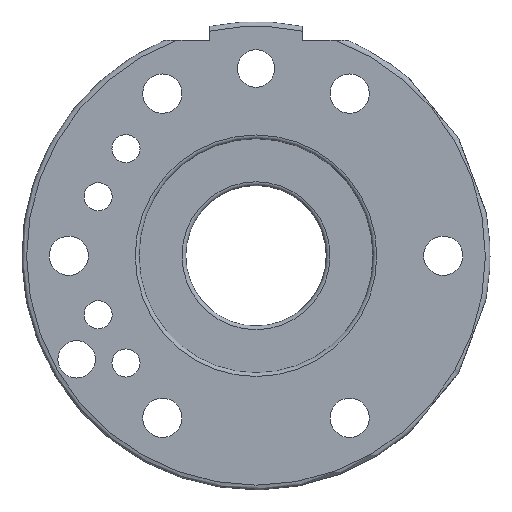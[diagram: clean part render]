
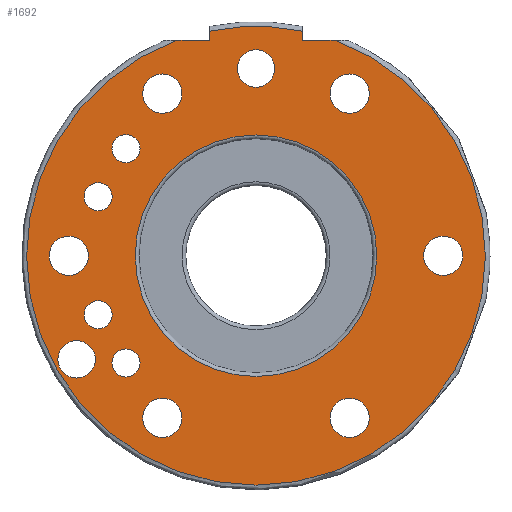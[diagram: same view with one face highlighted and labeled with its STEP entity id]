
A CAD part, front view. The second image highlights one B-rep face of the part: STEP entity #1692.
In plain terms, the highlighted planar face has unit normal (0, -1, 0).
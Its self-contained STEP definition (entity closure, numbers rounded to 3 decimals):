
#28=PLANE('',#1842);
#59=FACE_BOUND('',#294,.T.);
#60=FACE_BOUND('',#295,.T.);
#61=FACE_BOUND('',#296,.T.);
#62=FACE_BOUND('',#297,.T.);
#63=FACE_BOUND('',#298,.T.);
#64=FACE_BOUND('',#299,.T.);
#65=FACE_BOUND('',#300,.T.);
#66=FACE_BOUND('',#301,.T.);
#67=FACE_BOUND('',#302,.T.);
#68=FACE_BOUND('',#303,.T.);
#69=FACE_BOUND('',#304,.T.);
#70=FACE_BOUND('',#305,.T.);
#71=FACE_BOUND('',#306,.T.);
#205=FACE_OUTER_BOUND('',#293,.T.);
#293=EDGE_LOOP('',(#1243,#1244,#1245,#1246,#1247,#1248));
#294=EDGE_LOOP('',(#1249));
#295=EDGE_LOOP('',(#1250));
#296=EDGE_LOOP('',(#1251));
#297=EDGE_LOOP('',(#1252));
#298=EDGE_LOOP('',(#1253));
#299=EDGE_LOOP('',(#1254));
#300=EDGE_LOOP('',(#1255,#1256));
#301=EDGE_LOOP('',(#1257));
#302=EDGE_LOOP('',(#1258));
#303=EDGE_LOOP('',(#1259));
#304=EDGE_LOOP('',(#1260));
#305=EDGE_LOOP('',(#1261));
#306=EDGE_LOOP('',(#1262));
#411=LINE('',#3047,#488);
#412=LINE('',#3049,#489);
#413=LINE('',#3053,#490);
#414=LINE('',#3054,#491);
#488=VECTOR('',#2151,10.);
#489=VECTOR('',#2152,10.);
#490=VECTOR('',#2155,10.);
#491=VECTOR('',#2156,10.);
#546=CIRCLE('',#1776,49.);
#566=CIRCLE('',#1809,4.);
#577=CIRCLE('',#1825,3.);
#580=CIRCLE('',#1829,3.);
#583=CIRCLE('',#1833,3.);
#586=CIRCLE('',#1837,3.);
#589=CIRCLE('',#1841,4.);
#590=CIRCLE('',#1843,49.);
#591=CIRCLE('',#1844,25.8);
#592=CIRCLE('',#1845,25.8);
#593=CIRCLE('',#1846,4.188);
#594=CIRCLE('',#1847,4.188);
#595=CIRCLE('',#1848,4.188);
#596=CIRCLE('',#1849,4.188);
#597=CIRCLE('',#1850,4.188);
#598=CIRCLE('',#1851,4.188);
#680=VERTEX_POINT('',#2660);
#681=VERTEX_POINT('',#2673);
#714=VERTEX_POINT('',#2978);
#725=VERTEX_POINT('',#3010);
#728=VERTEX_POINT('',#3018);
#731=VERTEX_POINT('',#3026);
#734=VERTEX_POINT('',#3034);
#737=VERTEX_POINT('',#3042);
#738=VERTEX_POINT('',#3046);
#739=VERTEX_POINT('',#3048);
#740=VERTEX_POINT('',#3050);
#741=VERTEX_POINT('',#3052);
#742=VERTEX_POINT('',#3055);
#743=VERTEX_POINT('',#3056);
#744=VERTEX_POINT('',#3059);
#745=VERTEX_POINT('',#3061);
#746=VERTEX_POINT('',#3063);
#747=VERTEX_POINT('',#3065);
#748=VERTEX_POINT('',#3067);
#749=VERTEX_POINT('',#3069);
#862=EDGE_CURVE('',#680,#681,#546,.T.);
#906=EDGE_CURVE('',#714,#714,#566,.T.);
#922=EDGE_CURVE('',#725,#725,#577,.T.);
#926=EDGE_CURVE('',#728,#728,#580,.T.);
#930=EDGE_CURVE('',#731,#731,#583,.T.);
#934=EDGE_CURVE('',#734,#734,#586,.T.);
#938=EDGE_CURVE('',#737,#737,#589,.T.);
#939=EDGE_CURVE('',#680,#738,#411,.T.);
#940=EDGE_CURVE('',#738,#739,#412,.T.);
#941=EDGE_CURVE('',#740,#739,#590,.T.);
#942=EDGE_CURVE('',#740,#741,#413,.T.);
#943=EDGE_CURVE('',#741,#681,#414,.T.);
#944=EDGE_CURVE('',#742,#743,#591,.T.);
#945=EDGE_CURVE('',#743,#742,#592,.T.);
#946=EDGE_CURVE('',#744,#744,#593,.T.);
#947=EDGE_CURVE('',#745,#745,#594,.T.);
#948=EDGE_CURVE('',#746,#746,#595,.T.);
#949=EDGE_CURVE('',#747,#747,#596,.T.);
#950=EDGE_CURVE('',#748,#748,#597,.T.);
#951=EDGE_CURVE('',#749,#749,#598,.T.);
#1243=ORIENTED_EDGE('',*,*,#862,.F.);
#1244=ORIENTED_EDGE('',*,*,#939,.T.);
#1245=ORIENTED_EDGE('',*,*,#940,.T.);
#1246=ORIENTED_EDGE('',*,*,#941,.F.);
#1247=ORIENTED_EDGE('',*,*,#942,.T.);
#1248=ORIENTED_EDGE('',*,*,#943,.T.);
#1249=ORIENTED_EDGE('',*,*,#906,.T.);
#1250=ORIENTED_EDGE('',*,*,#922,.T.);
#1251=ORIENTED_EDGE('',*,*,#926,.T.);
#1252=ORIENTED_EDGE('',*,*,#930,.T.);
#1253=ORIENTED_EDGE('',*,*,#934,.T.);
#1254=ORIENTED_EDGE('',*,*,#938,.T.);
#1255=ORIENTED_EDGE('',*,*,#944,.F.);
#1256=ORIENTED_EDGE('',*,*,#945,.F.);
#1257=ORIENTED_EDGE('',*,*,#946,.T.);
#1258=ORIENTED_EDGE('',*,*,#947,.T.);
#1259=ORIENTED_EDGE('',*,*,#948,.T.);
#1260=ORIENTED_EDGE('',*,*,#949,.T.);
#1261=ORIENTED_EDGE('',*,*,#950,.T.);
#1262=ORIENTED_EDGE('',*,*,#951,.T.);
#1692=ADVANCED_FACE('',(#205,#59,#60,#61,#62,#63,#64,#65,#66,#67,#68,#69,
#70,#71),#28,.T.);
#1776=AXIS2_PLACEMENT_3D('',#2674,#1996,#1997);
#1809=AXIS2_PLACEMENT_3D('',#2980,#2074,#2075);
#1825=AXIS2_PLACEMENT_3D('',#3012,#2111,#2112);
#1829=AXIS2_PLACEMENT_3D('',#3020,#2120,#2121);
#1833=AXIS2_PLACEMENT_3D('',#3028,#2129,#2130);
#1837=AXIS2_PLACEMENT_3D('',#3036,#2138,#2139);
#1841=AXIS2_PLACEMENT_3D('',#3044,#2147,#2148);
#1842=AXIS2_PLACEMENT_3D('',#3045,#2149,#2150);
#1843=AXIS2_PLACEMENT_3D('',#3051,#2153,#2154);
#1844=AXIS2_PLACEMENT_3D('',#3057,#2157,#2158);
#1845=AXIS2_PLACEMENT_3D('',#3058,#2159,#2160);
#1846=AXIS2_PLACEMENT_3D('',#3060,#2161,#2162);
#1847=AXIS2_PLACEMENT_3D('',#3062,#2163,#2164);
#1848=AXIS2_PLACEMENT_3D('',#3064,#2165,#2166);
#1849=AXIS2_PLACEMENT_3D('',#3066,#2167,#2168);
#1850=AXIS2_PLACEMENT_3D('',#3068,#2169,#2170);
#1851=AXIS2_PLACEMENT_3D('',#3070,#2171,#2172);
#1996=DIRECTION('center_axis',(0.,1.,0.));
#1997=DIRECTION('ref_axis',(0.,0.,-1.));
#2074=DIRECTION('center_axis',(0.,1.,0.));
#2075=DIRECTION('ref_axis',(1.,0.,0.));
#2111=DIRECTION('center_axis',(0.,1.,0.));
#2112=DIRECTION('ref_axis',(1.,0.,0.));
#2120=DIRECTION('center_axis',(0.,1.,0.));
#2121=DIRECTION('ref_axis',(1.,0.,0.));
#2129=DIRECTION('center_axis',(0.,1.,0.));
#2130=DIRECTION('ref_axis',(1.,0.,0.));
#2138=DIRECTION('center_axis',(0.,1.,0.));
#2139=DIRECTION('ref_axis',(1.,0.,0.));
#2147=DIRECTION('center_axis',(0.,1.,0.));
#2148=DIRECTION('ref_axis',(1.,0.,0.));
#2149=DIRECTION('center_axis',(0.,-1.,0.));
#2150=DIRECTION('ref_axis',(0.,0.,-1.));
#2151=DIRECTION('',(-1.,0.,0.));
#2152=DIRECTION('',(0.,0.,1.));
#2153=DIRECTION('center_axis',(0.,1.,0.));
#2154=DIRECTION('ref_axis',(0.,0.,
1.));
#2155=DIRECTION('',(0.,0.,-1.));
#2156=DIRECTION('',(-1.,0.,0.));
#2157=DIRECTION('center_axis',(0.,-1.,0.));
#2158=DIRECTION('ref_axis',(1.,0.,0.));
#2159=DIRECTION('center_axis',(0.,-1.,0.));
#2160=DIRECTION('ref_axis',(1.,0.,0.));
#2161=DIRECTION('center_axis',(0.,1.,0.));
#2162=DIRECTION('ref_axis',(1.,0.,0.));
#2163=DIRECTION('center_axis',(0.,1.,0.));
#2164=DIRECTION('ref_axis',(1.,0.,0.));
#2165=DIRECTION('center_axis',(0.,1.,0.));
#2166=DIRECTION('ref_axis',(1.,0.,0.));
#2167=DIRECTION('center_axis',(0.,1.,0.));
#2168=DIRECTION('ref_axis',(1.,0.,0.));
#2169=DIRECTION('center_axis',(0.,1.,0.));
#2170=DIRECTION('ref_axis',(1.,0.,0.));
#2171=DIRECTION('center_axis',(0.,1.,0.));
#2172=DIRECTION('ref_axis',(1.,0.,0.));
#2660=CARTESIAN_POINT('',(16.882,0.,46.));
#2673=CARTESIAN_POINT('',(-16.882,0.,46.));
#2674=CARTESIAN_POINT('Origin',(0.,0.,
0.));
#2978=CARTESIAN_POINT('',(-4.,0.,40.));
#2980=CARTESIAN_POINT('Origin',(0.,0.,
40.));
#3010=CARTESIAN_POINT('',(-36.72,0.,12.607));
#3012=CARTESIAN_POINT('Origin',(-33.72,0.,12.607));
#3018=CARTESIAN_POINT('',(-30.778,0.,-22.899));
#3020=CARTESIAN_POINT('Origin',(-27.778,0.,-22.899));
#3026=CARTESIAN_POINT('',(-36.72,0.,-12.607));
#3028=CARTESIAN_POINT('Origin',(-33.72,0.,-12.607));
#3034=CARTESIAN_POINT('',(-30.778,0.,22.899));
#3036=CARTESIAN_POINT('Origin',(-27.778,0.,22.899));
#3042=CARTESIAN_POINT('',(-42.322,0.,-22.125));
#3044=CARTESIAN_POINT('Origin',(-38.322,0.,-22.125));
#3045=CARTESIAN_POINT('Origin',(-37.5,0.,0.));
#3046=CARTESIAN_POINT('',(10.,0.,46.));
#3047=CARTESIAN_POINT('',(-9.858,0.,46.));
#3048=CARTESIAN_POINT('',(10.,0.,47.969));
#3049=CARTESIAN_POINT('',(10.,0.,25.));
#3050=CARTESIAN_POINT('',(-10.,0.,47.969));
#3051=CARTESIAN_POINT('Origin',(0.,0.,
0.));
#3052=CARTESIAN_POINT('',(-10.,0.,46.));
#3053=CARTESIAN_POINT('',(-10.,0.,25.));
#3054=CARTESIAN_POINT('',(-27.642,0.,46.));
#3055=CARTESIAN_POINT('',(-25.8,0.,0.));
#3056=CARTESIAN_POINT('',(0.,0.,-25.8));
#3057=CARTESIAN_POINT('Origin',(0.,0.,
0.));
#3058=CARTESIAN_POINT('Origin',(0.,0.,
0.));
#3059=CARTESIAN_POINT('',(15.812,0.,34.641));
#3060=CARTESIAN_POINT('Origin',(20.,0.,34.641));
#3061=CARTESIAN_POINT('',(35.812,0.,0.));
#3062=CARTESIAN_POINT('Origin',(40.,0.,0.));
#3063=CARTESIAN_POINT('',(-24.188,0.,34.641));
#3064=CARTESIAN_POINT('Origin',(-20.,0.,34.641));
#3065=CARTESIAN_POINT('',(-44.188,0.,0.));
#3066=CARTESIAN_POINT('Origin',(-40.,0.,0.));
#3067=CARTESIAN_POINT('',(-24.188,0.,-34.641));
#3068=CARTESIAN_POINT('Origin',(-20.,0.,-34.641));
#3069=CARTESIAN_POINT('',(15.812,0.,-34.641));
#3070=CARTESIAN_POINT('Origin',(20.,0.,-34.641));
